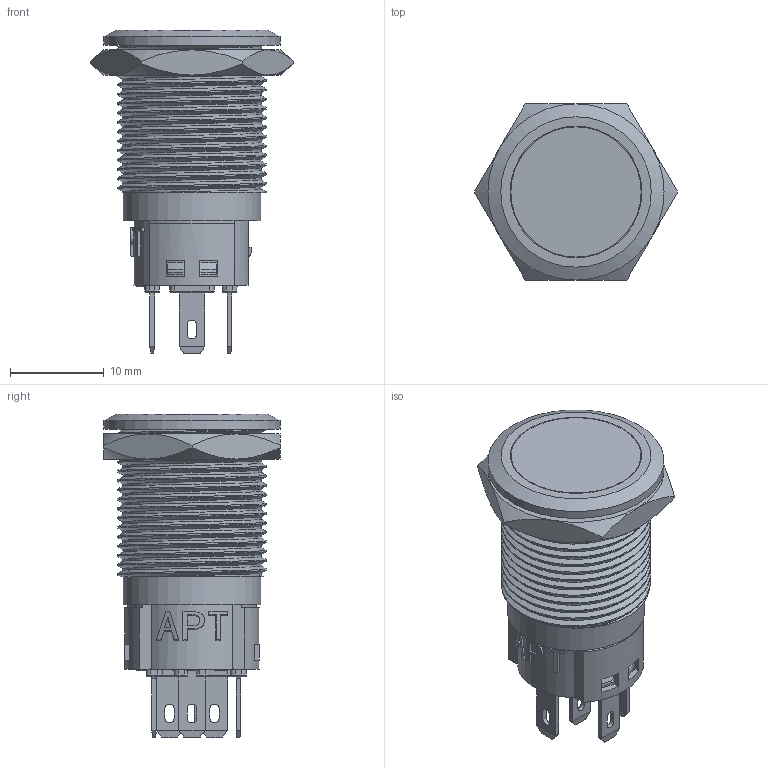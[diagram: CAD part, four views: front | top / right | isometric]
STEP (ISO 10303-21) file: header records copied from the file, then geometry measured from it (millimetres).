
FILE_DESCRIPTION(/* description */ (''),/* implementation_level */ '2;1');
FILE_NAME(/* name */ 'FM16N-SFP-11.prt.stp',/* time_stamp */ '2020-08-03T16:25:22+08:00',/* author */ (''),/* organization */ (''),/* preprocessor_version */ 'ST-DEVELOPER v16.7',/* originating_system */ 'SIEMENS PLM Software NX 12.0',/* authorisation */ '');
FILE_SCHEMA (('AUTOMOTIVE_DESIGN { 1 0 10303 214 3 1 1 1 }'));
Length unit declared in the file: millimetre
Products named in the file (1): Admi2AF0CFF0h97q
Bounding box: 21.71 x 18.8 x 34.55 mm (x, y, z)
Volume: 2297.8 mm3; surface area: 5997.7 mm2
Topology: 4 solids, 4 shells, 875 faces, 2513 edges, 1629 vertices
Faces by surface type: plane 601, cylinder 148, extrusion 43, torus 37, cone 34, bspline 12
Full cylindrical faces by diameter (mm): 1.2 x2, 2 x3, 11 x1, 13.5 x1, 13.9 x2, 14.05 x1, 14.7 x1, 18.8 x1
Entity records: 35604 total; most frequent: CARTESIAN_POINT 8938, ORIENTED_EDGE 4982, DIRECTION 4396, EDGE_CURVE 2491, VECTOR 1834, LINE 1791, VERTEX_POINT 1623, AXIS2_PLACEMENT_3D 1281
